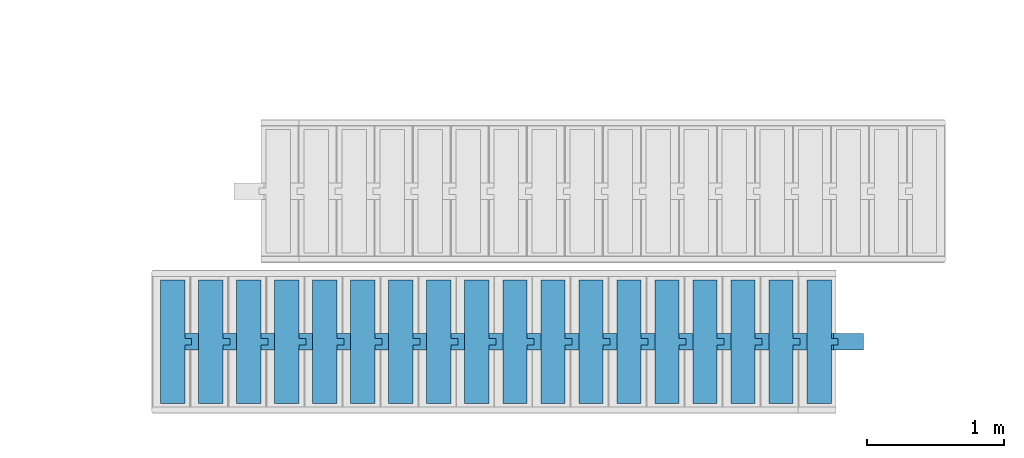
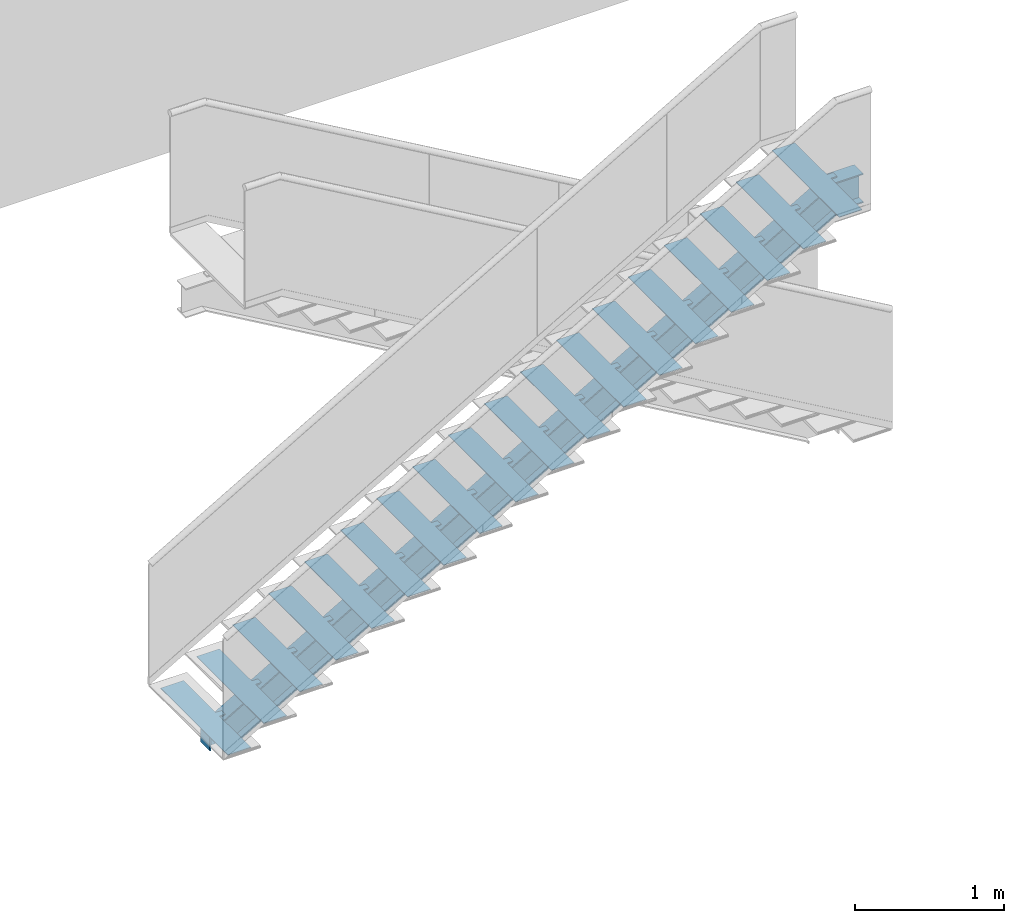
# One storey, part 3 of 22: 1 stair, 1 element without a shape of its own.
"""IFC2X3 building model written with IfcOpenShell, lengths in millimetres."""

from ifc_helpers import new_model, entity, si_unit, converted_unit, derived_unit, direction, frame, origin, place, context, subcontext, project, spatial, face_set, surface_model, material, element, aggregate, save


model = new_model("IFC2X3")

# Units and contexts
model_context = context("Model", 3, precision=0.01, world=origin(), true_north=direction((6.12303176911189e-17, 1.0)))
body_context = subcontext(model_context, "Body", "Model", "MODEL_VIEW")
ifc_project = project(units=[si_unit("LENGTHUNIT", "METRE", prefix="MILLI"), si_unit("AREAUNIT", "SQUARE_METRE"), si_unit("VOLUMEUNIT", "CUBIC_METRE"), converted_unit("PLANEANGLEUNIT", "DEGREE", entity("IfcRatioMeasure", 0.0174532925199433), si_unit("PLANEANGLEUNIT", "RADIAN"), dimensions=[0, 0, 0, 0, 0, 0, 0]), si_unit("MASSUNIT", "GRAM", prefix="KILO"), derived_unit("MASSDENSITYUNIT", [(si_unit("MASSUNIT", "GRAM", prefix="KILO"), 1), (si_unit("LENGTHUNIT", "METRE"), -3)]), si_unit("TIMEUNIT", "SECOND"), si_unit("FREQUENCYUNIT", "HERTZ"), si_unit("THERMODYNAMICTEMPERATUREUNIT", "DEGREE_CELSIUS"), derived_unit("THERMALTRANSMITTANCEUNIT", [(si_unit("MASSUNIT", "GRAM", prefix="KILO"), 1), (si_unit("THERMODYNAMICTEMPERATUREUNIT", "KELVIN"), -1), (si_unit("TIMEUNIT", "SECOND"), -3)]), derived_unit("VOLUMETRICFLOWRATEUNIT", [(si_unit("LENGTHUNIT", "METRE"), 3), (si_unit("TIMEUNIT", "SECOND"), -1)]), si_unit("ELECTRICCURRENTUNIT", "AMPERE"), si_unit("ELECTRICVOLTAGEUNIT", "VOLT"), si_unit("POWERUNIT", "WATT"), si_unit("FORCEUNIT", "NEWTON", prefix="KILO"), si_unit("ILLUMINANCEUNIT", "LUX"), si_unit("LUMINOUSFLUXUNIT", "LUMEN"), si_unit("LUMINOUSINTENSITYUNIT", "CANDELA"), derived_unit("USERDEFINED", [(si_unit("MASSUNIT", "GRAM", prefix="KILO"), -1), (si_unit("LENGTHUNIT", "METRE"), -2), (si_unit("TIMEUNIT", "SECOND"), 3), (si_unit("LUMINOUSFLUXUNIT", "LUMEN"), 1)]), derived_unit("LINEARVELOCITYUNIT", [(si_unit("LENGTHUNIT", "METRE"), 1), (si_unit("TIMEUNIT", "SECOND"), -1)]), si_unit("PRESSUREUNIT", "PASCAL"), derived_unit("USERDEFINED", [(si_unit("LENGTHUNIT", "METRE"), -2), (si_unit("MASSUNIT", "GRAM", prefix="KILO"), 1), (si_unit("TIMEUNIT", "SECOND"), -2)])], contexts=[model_context])

# Site, building, storey
site_placement = place(None, origin())
site = spatial("IfcSite", under=ifc_project, at=site_placement, Name="Default", CompositionType="ELEMENT")
building_placement = place(site_placement, origin())
building = spatial("IfcBuilding", under=site, at=building_placement, CompositionType="ELEMENT")
storey_placement = place(building_placement, frame((0.0, 0.0, -3000.0)))
storey = spatial("IfcBuildingStorey", under=building, at=storey_placement, Name="-2. Story", CompositionType="ELEMENT", Elevation=-3000.0)

# Stairs
stair_1_placement = place(storey_placement, frame((66923.8569215, 68040.9366768, 0.0)))
stair_1 = element("IfcStair", 1, at=stair_1_placement, inside=storey, Name="SF STRUCTURE - 009:SF STRUCTURE - 009", ObjectType="SF STRUCTURE - 009:SF STRUCTURE - 009", ShapeType="NOTDEFINED")
ifc_material = material(Name="Metal - Stainless Steel")
stair_2_placement = place(stair_1_placement, origin())
stair_2 = element("IfcStair", 2, at=stair_2_placement, material=ifc_material, Name="SF STRUCTURE - 009:SF STRUCTURE - 009", ObjectType="SF STRUCTURE - 009:SF STRUCTURE - 009", ShapeType="NOTDEFINED", context=body_context, shape_type="SurfaceModel", body=[
    surface_model("IfcFaceBasedSurfaceModel", [(85.0, 390.0, 0.0), (94.8000000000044, 390.0, 0.0), (94.8000000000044, 390.0, 142.654928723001), (4918.15357116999, 390.0, 2940.2), (5135.0, 390.0, 2940.2), (5135.0, 390.0, 2950.0), (4915.51724138, 390.0, 2950.0), (85.0, 390.0, 148.300000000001), (85.0, 390.0, 0.0), (85.0, 450.0, 0.0), (85.0, 510.0, 0.0), (94.8000000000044, 510.0, 0.0), (94.8000000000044, 453.10000000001, 0.0), (315.199999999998, 453.10000000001, 0.0), (315.199999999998, 510.0, 0.0), (325.0, 510.0, 0.0), (325.0, 390.0, 0.0), (315.199999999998, 390.0, 0.0), (315.199999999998, 446.899999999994, 0.0), (94.8000000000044, 446.899999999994, 0.0), (94.8000000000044, 390.0, 0.0), (94.8000000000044, 390.0, 0.0), (94.8000000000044, 446.899999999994, 0.0), (94.8000000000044, 446.899999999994, 142.654928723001), (94.8000000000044, 390.0, 142.654928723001), (4918.15357116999, 390.0, 2940.2), (94.8000000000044, 390.0, 142.654928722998), (94.8000000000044, 446.899999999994, 142.654928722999), (4918.15357116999, 446.899999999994, 2940.2), (5135.0, 390.0, 2940.2), (4918.15357116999, 390.0, 2940.2), (4918.15357116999, 446.899999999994, 2940.2), (5135.0, 446.899999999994, 2940.2), (5135.0, 510.0, 2950.0), (5135.0, 450.0, 2950.0), (5135.0, 390.0, 2950.0), (5135.0, 390.0, 2940.2), (5135.0, 446.899999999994, 2940.2), (5135.0, 446.899999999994, 2719.8), (5135.0, 390.0, 2719.8), (5135.0, 390.0, 2710.0), (5135.0, 510.0, 2710.0), (5135.0, 510.0, 2719.8), (5135.0, 453.10000000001, 2719.8), (5135.0, 453.10000000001, 2940.2), (5135.0, 510.0, 2940.2), (5135.0, 450.0, 2950.0), (4915.51724138, 450.0, 2950.0), (4915.51724138, 390.0, 2950.0), (5135.0, 390.0, 2950.0), (4915.51724138, 450.0, 2950.0), (85.0, 450.0, 148.300000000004), (85.0, 390.0, 148.300000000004), (4915.51724138, 390.0, 2950.0), (85.0, 450.0, 0.0), (85.0, 390.0, 0.0), (85.0, 390.0, 148.300000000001), (85.0, 450.0, 148.300000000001), (85.0, 510.0, 0.0), (85.0, 450.0, 0.0), (85.0, 450.0, 148.300000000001), (85.0, 510.0, 148.300000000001), (94.8000000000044, 510.0, 0.0), (85.0, 510.0, 0.0), (85.0, 510.0, 148.300000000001), (4915.51724138, 510.0, 2950.0), (5135.0, 510.0, 2950.0), (5135.0, 510.0, 2940.2), (4918.15357116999, 510.0, 2940.2), (94.8000000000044, 510.0, 142.654928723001), (94.8000000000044, 453.10000000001, 0.0), (94.8000000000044, 510.0, 0.0), (94.8000000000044, 510.0, 142.654928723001), (94.8000000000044, 453.10000000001, 142.654928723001), (315.199999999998, 453.100000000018, 0.0), (94.8000000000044, 453.100000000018, 0.0), (94.8000000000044, 453.100000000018, 142.654928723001), (4918.15357116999, 453.100000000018, 2940.2), (5135.0, 453.100000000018, 2940.2), (5135.0, 453.100000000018, 2719.8), (4977.44409007, 453.100000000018, 2719.8), (315.199999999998, 453.100000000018, 15.698427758), (315.199999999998, 510.0, 0.0), (315.199999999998, 453.10000000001, 0.0), (315.199999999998, 453.10000000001, 15.6984277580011), (315.199999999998, 510.0, 15.6984277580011), (325.0, 510.0, 0.0), (315.199999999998, 510.0, 0.0), (315.199999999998, 510.0, 15.6984277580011), (4977.44409007, 510.0, 2719.8), (5135.0, 510.0, 2719.8), (5135.0, 510.0, 2710.0), (4980.08041985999, 510.0, 2710.0), (325.0, 510.0, 10.0533564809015), (325.0, 390.0, 0.0), (325.0, 510.0, 0.0), (325.0, 510.0, 10.0533564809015), (325.0, 390.0, 10.0533564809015), (315.199999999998, 390.0, 0.0), (325.0, 390.0, 0.0), (325.0, 390.0, 10.0533564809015), (4980.08041985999, 390.0, 2710.0), (5135.0, 390.0, 2710.0), (5135.0, 390.0, 2719.8), (4977.44409007, 390.0, 2719.8), (315.199999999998, 390.0, 15.698427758), (315.199999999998, 446.899999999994, 0.0), (315.199999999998, 390.0, 0.0), (315.199999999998, 390.0, 15.6984277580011), (315.199999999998, 446.899999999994, 15.6984277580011), (94.8000000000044, 446.899999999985, 0.0), (315.199999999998, 446.899999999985, 0.0), (315.199999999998, 446.899999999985, 15.6984277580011), (4977.44409007, 446.899999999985, 2719.8), (5135.0, 446.899999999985, 2719.8), (5135.0, 446.899999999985, 2940.2), (4918.15357116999, 446.899999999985, 2940.2), (94.8000000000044, 446.899999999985, 142.654928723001), (5135.0, 510.0, 2950.0), (4915.51724138, 510.0, 2950.0), (4915.51724138, 450.0, 2950.0), (5135.0, 450.0, 2950.0), (5135.0, 446.899999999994, 2719.8), (4977.44409007, 446.899999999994, 2719.8), (4977.44409007, 390.0, 2719.8), (5135.0, 390.0, 2719.8), (5135.0, 390.0, 2710.0), (4980.08041985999, 390.0, 2710.0), (4980.08041985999, 510.0, 2710.0), (5135.0, 510.0, 2710.0), (5135.0, 510.0, 2719.8), (4977.44409007, 510.0, 2719.8), (4977.44409007, 453.10000000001, 2719.8), (5135.0, 453.10000000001, 2719.8), (5135.0, 453.10000000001, 2940.2), (4918.15357116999, 453.10000000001, 2940.2), (4918.15357116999, 510.0, 2940.2), (5135.0, 510.0, 2940.2), (4915.51724138, 510.0, 2950.0), (85.0, 510.0, 148.300000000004), (85.0, 450.0, 148.300000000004), (4915.51724138, 450.0, 2950.0), (4918.15357116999, 453.10000000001, 2940.2), (94.8000000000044, 453.10000000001, 142.654928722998), (94.8000000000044, 510.0, 142.654928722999), (4918.15357116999, 510.0, 2940.2), (4977.44409007, 510.0, 2719.8), (315.199999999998, 510.0, 15.6984277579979), (315.199999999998, 453.10000000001, 15.6984277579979), (4977.44409007, 453.10000000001, 2719.8), (4980.08041985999, 390.0, 2710.0), (325.0, 390.0, 10.0533564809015), (325.0, 510.0, 10.0533564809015), (4980.08041985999, 510.0, 2710.0), (4977.44409007, 446.899999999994, 2719.8), (315.199999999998, 446.899999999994, 15.6984277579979), (315.199999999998, 390.0, 15.6984277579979), (4977.44409007, 390.0, 2719.8), (4900.0, 0.0, 2975.0), (4900.0, 900.0, 2975.0), (4722.22222222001, 900.0, 2975.0), (4722.22222222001, 0.0, 2975.0), (4900.0, 0.0, 2970.0), (4900.0, 900.0, 2970.0), (4722.22222222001, 900.0, 2970.0), (4722.22222222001, 0.0, 2970.0), (4622.22222222, 900.0, 2813.88888889), (4444.44444444, 900.0, 2813.88888889), (4444.44444444, 0.0, 2813.88888889), (4622.22222222, 0.0, 2813.88888889), (4622.22222222, 900.0, 2808.88888889), (4444.44444444, 900.0, 2808.88888889), (4444.44444444, 0.0, 2808.88888889), (4622.22222222, 0.0, 2808.88888889), (4344.44444444, 900.0, 2652.77777778), (4166.66666667, 900.0, 2652.77777778), (4166.66666667, 0.0, 2652.77777778), (4344.44444444, 0.0, 2652.77777778), (4344.44444444, 900.0, 2647.77777778), (4166.66666667, 900.0, 2647.77777778), (4166.66666667, 0.0, 2647.77777778), (4344.44444444, 0.0, 2647.77777778), (4066.66666667, 900.0, 2491.66666667), (3888.88888888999, 900.0, 2491.66666667), (3888.88888888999, 0.0, 2491.66666667), (4066.66666667, 0.0, 2491.66666667), (4066.66666667, 900.0, 2486.66666667), (3888.88888888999, 900.0, 2486.66666667), (3888.88888888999, 0.0, 2486.66666667), (4066.66666667, 0.0, 2486.66666667), (3788.88888889, 900.0, 2330.55555556), (3611.11111111, 900.0, 2330.55555556), (3611.11111111, 0.0, 2330.55555556), (3788.88888889, 0.0, 2330.55555556), (3788.88888889, 900.0, 2325.55555556), (3611.11111111, 900.0, 2325.55555556), (3611.11111111, 0.0, 2325.55555556), (3788.88888889, 0.0, 2325.55555556), (3511.11111111, 900.0, 2169.44444444), (3333.33333332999, 900.0, 2169.44444444), (3333.33333332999, 0.0, 2169.44444444), (3511.11111111, 0.0, 2169.44444444), (3511.11111111, 900.0, 2164.44444444), (3333.33333332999, 900.0, 2164.44444444), (3333.33333332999, 0.0, 2164.44444444), (3511.11111111, 0.0, 2164.44444444), (3233.33333332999, 900.0, 2008.33333333), (3055.55555556, 900.0, 2008.33333333), (3055.55555556, 0.0, 2008.33333333), (3233.33333332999, 0.0, 2008.33333333), (3233.33333332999, 900.0, 2003.33333333), (3055.55555556, 900.0, 2003.33333333), (3055.55555556, 0.0, 2003.33333333), (3233.33333332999, 0.0, 2003.33333333), (2955.55555556, 900.0, 1847.22222222), (2777.77777777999, 900.0, 1847.22222222), (2777.77777777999, 0.0, 1847.22222222), (2955.55555556, 0.0, 1847.22222222), (2955.55555556, 900.0, 1842.22222222), (2777.77777777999, 900.0, 1842.22222222), (2777.77777777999, 0.0, 1842.22222222), (2955.55555556, 0.0, 1842.22222222), (2677.77777777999, 900.0, 1686.11111111), (2500.0, 900.0, 1686.11111111), (2500.0, 0.0, 1686.11111111), (2677.77777777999, 0.0, 1686.11111111), (2677.77777777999, 900.0, 1681.11111111), (2500.0, 900.0, 1681.11111111), (2500.0, 0.0, 1681.11111111), (2677.77777777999, 0.0, 1681.11111111), (2400.0, 900.0, 1525.0), (2222.22222222, 900.0, 1525.0), (2222.22222222, 0.0, 1525.0), (2400.0, 0.0, 1525.0), (2400.0, 900.0, 1520.0), (2222.22222222, 900.0, 1520.0), (2222.22222222, 0.0, 1520.0), (2400.0, 0.0, 1520.0), (2122.22222222, 900.0, 1363.88888889), (1944.44444444, 900.0, 1363.88888889), (1944.44444444, 0.0, 1363.88888889), (2122.22222222, 0.0, 1363.88888889), (2122.22222222, 900.0, 1358.88888889), (1944.44444444, 900.0, 1358.88888889), (1944.44444444, 0.0, 1358.88888889), (2122.22222222, 0.0, 1358.88888889), (1844.44444443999, 900.0, 1202.77777778), (1666.66666667, 900.0, 1202.77777778), (1666.66666667, 0.0, 1202.77777778), (1844.44444443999, 0.0, 1202.77777778), (1844.44444443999, 900.0, 1197.77777778), (1666.66666667, 900.0, 1197.77777778), (1666.66666667, 0.0, 1197.77777778), (1844.44444443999, 0.0, 1197.77777778), (1566.66666667, 900.0, 1041.666666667), (1388.88888889, 900.0, 1041.666666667), (1388.88888889, 0.0, 1041.666666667), (1566.66666667, 0.0, 1041.666666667), (1566.66666667, 900.0, 1036.666666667), (1388.88888889, 900.0, 1036.666666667), (1388.88888889, 0.0, 1036.666666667), (1566.66666667, 0.0, 1036.666666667), (1288.88888888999, 900.0, 880.555555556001), (1111.11111111, 900.0, 880.555555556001), (1111.11111111, 0.0, 880.555555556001), (1288.88888888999, 0.0, 880.555555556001), (1288.88888888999, 900.0, 875.555555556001), (1111.11111111, 900.0, 875.555555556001), (1111.11111111, 0.0, 875.555555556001), (1288.88888888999, 0.0, 875.555555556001), (1011.11111111, 900.0, 719.444444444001), (833.333333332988, 900.0, 719.444444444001), (833.333333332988, 0.0, 719.444444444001), (1011.11111111, 0.0, 719.444444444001), (1011.11111111, 900.0, 714.444444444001), (833.333333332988, 900.0, 714.444444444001), (833.333333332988, 0.0, 714.444444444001), (1011.11111111, 0.0, 714.444444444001), (733.333333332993, 900.0, 558.333333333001), (555.555555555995, 900.0, 558.333333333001), (555.555555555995, 0.0, 558.333333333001), (733.333333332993, 0.0, 558.333333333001), (733.333333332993, 900.0, 553.333333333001), (555.555555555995, 900.0, 553.333333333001), (555.555555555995, 0.0, 553.333333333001), (733.333333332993, 0.0, 553.333333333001), (455.555555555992, 900.0, 397.222222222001), (277.777777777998, 900.0, 397.222222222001), (277.777777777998, 0.0, 397.222222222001), (455.555555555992, 0.0, 397.222222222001), (455.555555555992, 900.0, 392.222222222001), (277.777777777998, 900.0, 392.222222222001), (277.777777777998, 0.0, 392.222222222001), (455.555555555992, 0.0, 392.222222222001), (177.777777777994, 900.0, 236.111111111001), (0.0, 900.0, 236.111111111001), (0.0, 0.0, 236.111111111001), (177.777777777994, 0.0, 236.111111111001), (177.777777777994, 900.0, 231.111111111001), (0.0, 900.0, 231.111111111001), (0.0, 0.0, 231.111111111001), (177.777777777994, 0.0, 231.111111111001), (4808.99452021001, 475.0, 2888.21682172), (4800.34420832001, 475.0, 2883.19964083), (4750.0, 475.0, 2970.0), (4950.0, 475.0, 2970.0), (4950.0, 475.0, 2960.0), (4767.36027680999, 475.0, 2960.0), (4808.99452021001, 425.0, 2888.21682172), (4767.36027680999, 425.0, 2960.0), (4950.0, 425.0, 2960.0), (4950.0, 425.0, 2970.0), (4750.0, 425.0, 2970.0), (4800.34420832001, 425.0, 2883.19964083), (4672.22222222, 475.0, 2808.88888889), (4654.98084290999, 475.0, 2798.88888889), (4489.58249904, 475.0, 2798.88888889), (4531.21674244, 475.0, 2727.10571061), (4522.56643054, 475.0, 2722.08852971), (4472.22222222, 475.0, 2808.88888889), (4672.22222222, 425.0, 2808.88888889), (4654.98084290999, 425.0, 2798.88888889), (4489.58249904, 425.0, 2798.88888889), (4531.21674244, 425.0, 2727.10571061), (4522.56643054, 425.0, 2722.08852971), (4472.22222222, 425.0, 2808.88888889), (4394.44444444, 475.0, 2647.77777778), (4377.20306513, 475.0, 2637.77777778), (4211.80472126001, 475.0, 2637.77777778), (4253.43896466, 475.0, 2565.9945995), (4244.78865277, 475.0, 2560.9774186), (4194.44444444, 475.0, 2647.77777778), (4394.44444444, 425.0, 2647.77777778), (4377.20306513, 425.0, 2637.77777778), (4211.80472126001, 425.0, 2637.77777778), (4253.43896466, 425.0, 2565.9945995), (4244.78865277, 425.0, 2560.9774186), (4194.44444444, 425.0, 2647.77777778), (4116.66666667, 475.0, 2486.66666667), (4099.42528736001, 475.0, 2476.66666667), (3934.02694348, 475.0, 2476.66666667), (3975.66118687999, 475.0, 2404.88348839), (3967.01087498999, 475.0, 2399.86630749), (3916.66666667, 475.0, 2486.66666667), (4116.66666667, 425.0, 2486.66666667), (4099.42528736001, 425.0, 2476.66666667), (3934.02694348, 425.0, 2476.66666667), (3975.66118687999, 425.0, 2404.88348839), (3967.01087498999, 425.0, 2399.86630749), (3916.66666667, 425.0, 2486.66666667), (3838.88888888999, 475.0, 2325.55555556), (3821.64750958, 475.0, 2315.55555556), (3656.2491657, 475.0, 2315.55555556), (3697.8834091, 475.0, 2243.77237728), (3689.23309721, 475.0, 2238.75519638), (3638.88888889, 475.0, 2325.55555556), (3838.88888888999, 425.0, 2325.55555556), (3821.64750958, 425.0, 2315.55555556), (3656.2491657, 425.0, 2315.55555556), (3697.8834091, 425.0, 2243.77237728), (3689.23309721, 425.0, 2238.75519638), (3638.88888889, 425.0, 2325.55555556), (3561.11111111, 475.0, 2164.44444444), (3543.8697318, 475.0, 2154.44444444), (3378.47138791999, 475.0, 2154.44444444), (3420.10563131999, 475.0, 2082.66126617), (3411.45531942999, 475.0, 2077.64408527), (3361.11111111, 475.0, 2164.44444444), (3561.11111111, 425.0, 2164.44444444), (3543.8697318, 425.0, 2154.44444444), (3378.47138791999, 425.0, 2154.44444444), (3420.10563131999, 425.0, 2082.66126617), (3411.45531942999, 425.0, 2077.64408527), (3361.11111111, 425.0, 2164.44444444), (3283.33333333, 475.0, 2003.33333333), (3266.09195401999, 475.0, 1993.33333333), (3100.69361015, 475.0, 1993.33333333), (3142.32785355, 475.0, 1921.55015506), (3133.67754165, 475.0, 1916.53297416), (3083.33333332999, 475.0, 2003.33333333), (3283.33333333, 425.0, 2003.33333333), (3266.09195401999, 425.0, 1993.33333333), (3100.69361015, 425.0, 1993.33333333), (3142.32785355, 425.0, 1921.55015506), (3133.67754165, 425.0, 1916.53297416), (3083.33333332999, 425.0, 2003.33333333), (3005.55555555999, 475.0, 1842.22222222), (2988.31417625, 475.0, 1832.22222222), (2822.91583236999, 475.0, 1832.22222222), (2864.55007577, 475.0, 1760.43904395), (2855.89976388, 475.0, 1755.42186305), (2805.55555556, 475.0, 1842.22222222), (3005.55555555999, 425.0, 1842.22222222), (2988.31417625, 425.0, 1832.22222222), (2822.91583236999, 425.0, 1832.22222222), (2864.55007577, 425.0, 1760.43904395), (2855.89976388, 425.0, 1755.42186305), (2805.55555556, 425.0, 1842.22222222), (2727.77777777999, 475.0, 1681.11111111), (2710.53639846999, 475.0, 1671.11111111), (2545.13805459, 475.0, 1671.11111111), (2586.77229798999, 475.0, 1599.32793283), (2578.12198609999, 475.0, 1594.31075194), (2527.77777777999, 475.0, 1681.11111111), (2727.77777777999, 425.0, 1681.11111111), (2710.53639846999, 425.0, 1671.11111111), (2545.13805459, 425.0, 1671.11111111), (2586.77229798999, 425.0, 1599.32793283), (2578.12198609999, 425.0, 1594.31075194), (2527.77777777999, 425.0, 1681.11111111), (2450.0, 475.0, 1520.0), (2432.75862069, 475.0, 1510.0), (2267.36027681, 475.0, 1510.0), (2308.99452021, 475.0, 1438.21682172), (2300.34420832, 475.0, 1433.19964083), (2250.0, 475.0, 1520.0), (2450.0, 425.0, 1520.0), (2432.75862069, 425.0, 1510.0), (2267.36027681, 425.0, 1510.0), (2308.99452021, 425.0, 1438.21682172), (2300.34420832, 425.0, 1433.19964083), (2250.0, 425.0, 1520.0), (2172.22222222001, 475.0, 1358.88888889), (2154.98084290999, 475.0, 1348.88888889), (1989.58249903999, 475.0, 1348.88888889), (2031.21674243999, 475.0, 1277.10571061), (2022.56643054, 475.0, 1272.08852971), (1972.22222222, 475.0, 1358.88888889), (2172.22222222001, 425.0, 1358.88888889), (2154.98084290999, 425.0, 1348.88888889), (1989.58249903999, 425.0, 1348.88888889), (2031.21674243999, 425.0, 1277.10571061), (2022.56643054, 425.0, 1272.08852971), (1972.22222222, 425.0, 1358.88888889), (1894.44444444, 475.0, 1197.77777778), (1877.20306513, 475.0, 1187.77777778), (1711.80472126, 475.0, 1187.77777778), (1753.43896466, 475.0, 1115.9945995), (1744.78865277, 475.0, 1110.9774186), (1694.44444443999, 475.0, 1197.77777778), (1894.44444444, 425.0, 1197.77777778), (1877.20306513, 425.0, 1187.77777778), (1711.80472126, 425.0, 1187.77777778), (1753.43896466, 425.0, 1115.9945995), (1744.78865277, 425.0, 1110.9774186), (1694.44444443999, 425.0, 1197.77777778), (1616.66666667, 475.0, 1036.666666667), (1599.42528736, 475.0, 1026.666666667), (1434.02694348, 475.0, 1026.666666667), (1475.66118688, 475.0, 954.883488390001), (1467.01087498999, 475.0, 949.866307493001), (1416.66666667, 475.0, 1036.666666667), (1616.66666667, 425.0, 1036.666666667), (1599.42528736, 425.0, 1026.666666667), (1434.02694348, 425.0, 1026.666666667), (1475.66118688, 425.0, 954.883488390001), (1467.01087498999, 425.0, 949.866307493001), (1416.66666667, 425.0, 1036.666666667), (1338.88888888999, 475.0, 875.555555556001), (1321.64750957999, 475.0, 865.555555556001), (1156.24916570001, 475.0, 865.555555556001), (1197.8834091, 475.0, 793.772377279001), (1189.23309721, 475.0, 788.755196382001), (1138.88888888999, 475.0, 875.555555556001), (1338.88888888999, 425.0, 875.555555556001), (1321.64750957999, 425.0, 865.555555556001), (1156.24916570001, 425.0, 865.555555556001), (1197.8834091, 425.0, 793.772377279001), (1189.23309721, 425.0, 788.755196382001), (1138.88888888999, 425.0, 875.555555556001), (1061.11111111, 475.0, 714.444444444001), (1043.8697318, 475.0, 704.444444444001), (878.471387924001, 475.0, 704.444444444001), (920.105631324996, 475.0, 632.661266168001), (911.455319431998, 475.0, 627.644085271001), (861.11111111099, 475.0, 714.444444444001), (1061.11111111, 425.0, 714.444444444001), (1043.8697318, 425.0, 704.444444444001), (878.471387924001, 425.0, 704.444444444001), (920.105631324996, 425.0, 632.661266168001), (911.455319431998, 425.0, 627.644085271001), (861.11111111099, 425.0, 714.444444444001), (783.333333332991, 475.0, 553.333333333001), (766.091954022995, 475.0, 543.333333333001), (600.693610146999, 475.0, 543.333333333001), (642.327853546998, 475.0, 471.550155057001), (633.677541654, 475.0, 466.532974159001), (583.333333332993, 475.0, 553.333333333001), (783.333333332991, 425.0, 553.333333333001), (766.091954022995, 425.0, 543.333333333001), (600.693610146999, 425.0, 543.333333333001), (642.327853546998, 425.0, 471.550155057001), (633.677541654, 425.0, 466.532974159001), (583.333333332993, 425.0, 553.333333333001), (505.555555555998, 475.0, 392.222222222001), (488.314176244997, 475.0, 382.222222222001), (322.915832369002, 475.0, 382.222222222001), (364.550075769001, 475.0, 310.439043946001), (355.899763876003, 475.0, 305.421863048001), (305.555555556, 475.0, 392.222222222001), (505.555555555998, 425.0, 392.222222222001), (488.314176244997, 425.0, 382.222222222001), (322.915832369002, 425.0, 382.222222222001), (364.550075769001, 425.0, 310.439043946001), (355.899763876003, 425.0, 305.421863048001), (305.555555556, 425.0, 392.222222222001), (227.777777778, 475.0, 231.111111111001), (210.536398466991, 475.0, 221.111111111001), (45.138054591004, 475.0, 221.111111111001), (86.7722979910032, 475.0, 149.327932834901), (85.0, 475.0, 148.300000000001), (85.0, 475.0, 132.452107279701), (27.7777777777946, 475.0, 231.111111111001), (227.777777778, 425.0, 231.111111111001), (210.536398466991, 425.0, 221.111111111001), (45.138054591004, 425.0, 221.111111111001), (86.7722979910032, 425.0, 149.327932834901), (85.0, 425.0, 148.300000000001), (85.0, 425.0, 132.452107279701), (27.7777777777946, 425.0, 231.111111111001)], [face_set([[[0, 1, 2, 3, 4, 5, 6, 7]]]), face_set([[[8, 9, 10, 11, 12, 13, 14, 15, 16, 17, 18, 19, 20]]]), face_set([[[21, 22, 23, 24]]]), face_set([[[25, 26, 27, 28]]]), face_set([[[29, 30, 31, 32]]]), face_set([[[33, 34, 35, 36, 37, 38, 39, 40, 41, 42, 43, 44, 45]]]), face_set([[[46, 47, 48, 49]]]), face_set([[[50, 51, 52, 53]]]), face_set([[[54, 55, 56, 57]]]), face_set([[[58, 59, 60, 61]]]), face_set([[[62, 63, 64, 65, 66, 67, 68, 69]]]), face_set([[[70, 71, 72, 73]]]), face_set([[[74, 75, 76, 77, 78, 79, 80, 81]]]), face_set([[[82, 83, 84, 85]]]), face_set([[[86, 87, 88, 89, 90, 91, 92, 93]]]), face_set([[[94, 95, 96, 97]]]), face_set([[[98, 99, 100, 101, 102, 103, 104, 105]]]), face_set([[[106, 107, 108, 109]]]), face_set([[[110, 111, 112, 113, 114, 115, 116, 117]]]), face_set([[[118, 119, 120, 121]]]), face_set([[[122, 123, 124, 125]]]), face_set([[[126, 127, 128, 129]]]), face_set([[[130, 131, 132, 133]]]), face_set([[[134, 135, 136, 137]]]), face_set([[[138, 139, 140, 141]]]), face_set([[[142, 143, 144, 145]]]), face_set([[[146, 147, 148, 149]]]), face_set([[[150, 151, 152, 153]]]), face_set([[[154, 155, 156, 157]]]), face_set([[[158, 159, 160, 161]], [[162, 163, 164, 165]], [[159, 158, 162, 163]], [[160, 159, 163, 164]], [[161, 165, 164, 160]], [[158, 161, 165, 162]]]), face_set([[[166, 167, 168, 169]], [[170, 171, 172, 173]], [[167, 166, 170, 171]], [[168, 172, 171, 167]], [[169, 168, 172, 173]], [[166, 169, 173, 170]]]), face_set([[[174, 175, 176, 177]], [[178, 179, 180, 181]], [[175, 174, 178, 179]], [[176, 180, 179, 175]], [[177, 176, 180, 181]], [[174, 177, 181, 178]]]), face_set([[[182, 183, 184, 185]], [[186, 187, 188, 189]], [[183, 182, 186, 187]], [[184, 188, 187, 183]], [[185, 184, 188, 189]], [[182, 185, 189, 186]]]), face_set([[[190, 191, 192, 193]], [[194, 195, 196, 197]], [[191, 190, 194, 195]], [[192, 196, 195, 191]], [[193, 192, 196, 197]], [[190, 193, 197, 194]]]), face_set([[[198, 199, 200, 201]], [[202, 203, 204, 205]], [[199, 198, 202, 203]], [[200, 204, 203, 199]], [[201, 200, 204, 205]], [[198, 201, 205, 202]]]), face_set([[[206, 207, 208, 209]], [[210, 211, 212, 213]], [[207, 206, 210, 211]], [[208, 212, 211, 207]], [[209, 208, 212, 213]], [[206, 209, 213, 210]]]), face_set([[[214, 215, 216, 217]], [[218, 219, 220, 221]], [[215, 214, 218, 219]], [[216, 220, 219, 215]], [[217, 216, 220, 221]], [[214, 217, 221, 218]]]), face_set([[[222, 223, 224, 225]], [[226, 227, 228, 229]], [[223, 222, 226, 227]], [[224, 228, 227, 223]], [[225, 224, 228, 229]], [[222, 225, 229, 226]]]), face_set([[[230, 231, 232, 233]], [[234, 235, 236, 237]], [[231, 230, 234, 235]], [[232, 236, 235, 231]], [[233, 232, 236, 237]], [[230, 233, 237, 234]]]), face_set([[[238, 239, 240, 241]], [[242, 243, 244, 245]], [[239, 238, 242, 243]], [[240, 244, 243, 239]], [[241, 240, 244, 245]], [[238, 241, 245, 242]]]), face_set([[[246, 247, 248, 249]], [[250, 251, 252, 253]], [[247, 246, 250, 251]], [[248, 252, 251, 247]], [[249, 248, 252, 253]], [[246, 249, 253, 250]]]), face_set([[[254, 255, 256, 257]], [[258, 259, 260, 261]], [[255, 254, 258, 259]], [[256, 260, 259, 255]], [[257, 256, 260, 261]], [[254, 257, 261, 258]]]), face_set([[[262, 263, 264, 265]], [[266, 267, 268, 269]], [[263, 262, 266, 267]], [[264, 268, 267, 263]], [[265, 264, 268, 269]], [[262, 265, 269, 266]]]), face_set([[[270, 271, 272, 273]], [[274, 275, 276, 277]], [[271, 270, 274, 275]], [[272, 276, 275, 271]], [[273, 272, 276, 277]], [[270, 273, 277, 274]]]), face_set([[[278, 279, 280, 281]], [[282, 283, 284, 285]], [[279, 278, 282, 283]], [[280, 284, 283, 279]], [[281, 280, 284, 285]], [[278, 281, 285, 282]]]), face_set([[[286, 287, 288, 289]], [[290, 291, 292, 293]], [[287, 286, 290, 291]], [[288, 292, 291, 287]], [[289, 288, 292, 293]], [[286, 289, 293, 290]]]), face_set([[[294, 295, 296, 297]], [[298, 299, 300, 301]], [[295, 294, 298, 299]], [[296, 295, 299, 300]], [[297, 296, 300, 301]], [[294, 298, 301, 297]]]), face_set([[[302, 303, 304, 305, 306, 307]], [[308, 309, 310, 311, 312, 313]], [[303, 313, 308, 302]], [[304, 312, 313, 303]], [[305, 304, 312, 311]], [[306, 305, 311, 310]], [[307, 309, 310, 306]], [[302, 307, 309, 308]]]), face_set([[[314, 315, 316, 317, 318, 319]], [[320, 321, 322, 323, 324, 325]], [[315, 321, 320, 314]], [[316, 322, 321, 315]], [[317, 316, 322, 323]], [[318, 324, 323, 317]], [[319, 325, 324, 318]], [[314, 319, 325, 320]]]), face_set([[[326, 327, 328, 329, 330, 331]], [[332, 333, 334, 335, 336, 337]], [[327, 333, 332, 326]], [[328, 334, 333, 327]], [[329, 328, 334, 335]], [[330, 336, 335, 329]], [[331, 337, 336, 330]], [[326, 331, 337, 332]]]), face_set([[[338, 339, 340, 341, 342, 343]], [[344, 345, 346, 347, 348, 349]], [[339, 345, 344, 338]], [[340, 346, 345, 339]], [[341, 340, 346, 347]], [[342, 348, 347, 341]], [[343, 349, 348, 342]], [[338, 343, 349, 344]]]), face_set([[[350, 351, 352, 353, 354, 355]], [[356, 357, 358, 359, 360, 361]], [[351, 357, 356, 350]], [[352, 358, 357, 351]], [[353, 352, 358, 359]], [[354, 360, 359, 353]], [[355, 361, 360, 354]], [[350, 355, 361, 356]]]), face_set([[[362, 363, 364, 365, 366, 367]], [[368, 369, 370, 371, 372, 373]], [[363, 369, 368, 362]], [[364, 370, 369, 363]], [[365, 364, 370, 371]], [[366, 372, 371, 365]], [[367, 373, 372, 366]], [[362, 367, 373, 368]]]), face_set([[[374, 375, 376, 377, 378, 379]], [[380, 381, 382, 383, 384, 385]], [[375, 381, 380, 374]], [[376, 382, 381, 375]], [[377, 376, 382, 383]], [[378, 384, 383, 377]], [[379, 385, 384, 378]], [[374, 379, 385, 380]]]), face_set([[[386, 387, 388, 389, 390, 391]], [[392, 393, 394, 395, 396, 397]], [[387, 393, 392, 386]], [[388, 394, 393, 387]], [[389, 388, 394, 395]], [[390, 396, 395, 389]], [[391, 397, 396, 390]], [[386, 391, 397, 392]]]), face_set([[[398, 399, 400, 401, 402, 403]], [[404, 405, 406, 407, 408, 409]], [[399, 405, 404, 398]], [[400, 406, 405, 399]], [[401, 400, 406, 407]], [[402, 408, 407, 401]], [[403, 409, 408, 402]], [[398, 403, 409, 404]]]), face_set([[[410, 411, 412, 413, 414, 415]], [[416, 417, 418, 419, 420, 421]], [[411, 417, 416, 410]], [[412, 418, 417, 411]], [[413, 412, 418, 419]], [[414, 420, 419, 413]], [[415, 421, 420, 414]], [[410, 415, 421, 416]]]), face_set([[[422, 423, 424, 425, 426, 427]], [[428, 429, 430, 431, 432, 433]], [[423, 429, 428, 422]], [[424, 430, 429, 423]], [[425, 424, 430, 431]], [[426, 432, 431, 425]], [[427, 433, 432, 426]], [[422, 427, 433, 428]]]), face_set([[[434, 435, 436, 437, 438, 439]], [[440, 441, 442, 443, 444, 445]], [[435, 441, 440, 434]], [[436, 442, 441, 435]], [[437, 436, 442, 443]], [[438, 444, 443, 437]], [[439, 445, 444, 438]], [[434, 439, 445, 440]]]), face_set([[[446, 447, 448, 449, 450, 451]], [[452, 453, 454, 455, 456, 457]], [[447, 453, 452, 446]], [[448, 454, 453, 447]], [[449, 448, 454, 455]], [[450, 456, 455, 449]], [[451, 457, 456, 450]], [[446, 451, 457, 452]]]), face_set([[[458, 459, 460, 461, 462, 463]], [[464, 465, 466, 467, 468, 469]], [[459, 465, 464, 458]], [[460, 466, 465, 459]], [[461, 460, 466, 467]], [[462, 468, 467, 461]], [[463, 469, 468, 462]], [[458, 463, 469, 464]]]), face_set([[[470, 471, 472, 473, 474, 475]], [[476, 477, 478, 479, 480, 481]], [[471, 477, 476, 470]], [[472, 478, 477, 471]], [[473, 472, 478, 479]], [[474, 480, 479, 473]], [[475, 481, 480, 474]], [[470, 475, 481, 476]]]), face_set([[[482, 483, 484, 485, 486, 487]], [[488, 489, 490, 491, 492, 493]], [[483, 489, 488, 482]], [[484, 490, 489, 483]], [[485, 484, 490, 491]], [[486, 492, 491, 485]], [[487, 493, 492, 486]], [[482, 487, 493, 488]]]), face_set([[[494, 495, 496, 497, 498, 499]], [[500, 501, 502, 503, 504, 505]], [[495, 501, 500, 494]], [[496, 502, 501, 495]], [[497, 496, 502, 503]], [[498, 504, 503, 497]], [[499, 505, 504, 498]], [[494, 499, 505, 500]]]), face_set([[[506, 507, 508, 509, 510, 511, 512]], [[513, 514, 515, 516, 517, 518, 519]], [[507, 514, 513, 506]], [[508, 515, 514, 507]], [[509, 516, 515, 508]], [[510, 517, 516, 509]], [[511, 518, 517, 510]], [[512, 511, 518, 519]], [[506, 512, 519, 513]]])]),
])
aggregate(stair_1, [stair_2])

save(model, "model.ifc")
